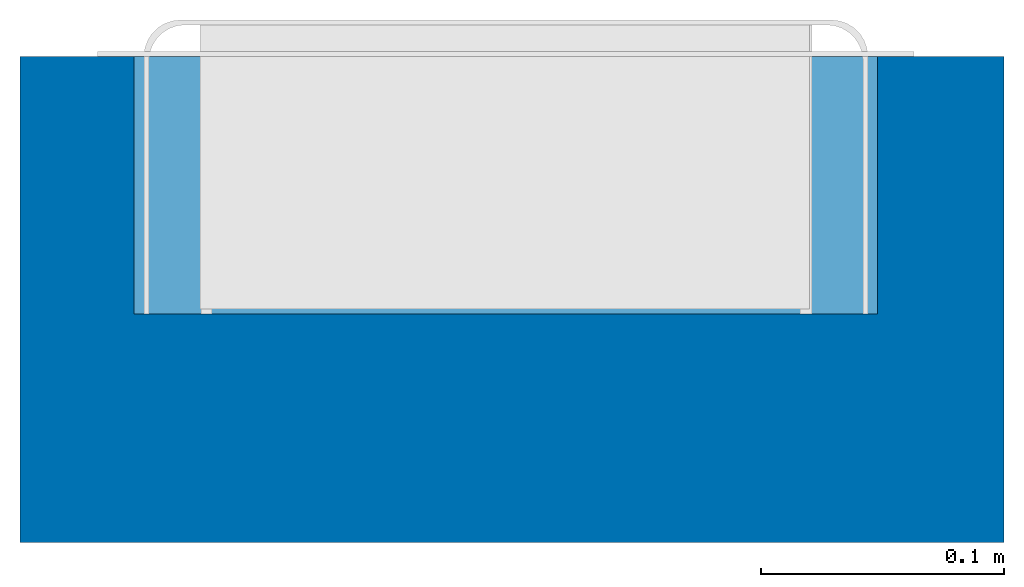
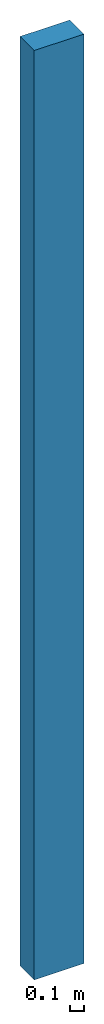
# One storey, part 1 of 2: 1 wall, 1 opening.
"""IFC2X3 building model written with IfcOpenShell, lengths in millimetres."""

from ifc_helpers import new_model, entity, si_unit, converted_unit, derived_unit, direction, frame, frame_2d, origin, place, context, subcontext, project, spatial, rectangle, extrude, material, layer, layer_set, layer_usage, type_object, element, save


model = new_model("IFC2X3")

# Units and contexts
model_context = context("Model", 3, precision=0.01, world=origin(), true_north=direction((6.12303176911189e-17, 1.0)))
context_of_model = context(None, 3, precision=0.01, world=origin(), true_north=direction((6.12303176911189e-17, 1.0)))
body_context = subcontext(model_context, "Body", "Model", "MODEL_VIEW")
ifc_project = project(units=[si_unit("LENGTHUNIT", "METRE", prefix="MILLI"), si_unit("AREAUNIT", "SQUARE_METRE"), si_unit("VOLUMEUNIT", "CUBIC_METRE"), converted_unit("PLANEANGLEUNIT", "DEGREE", entity("IfcRatioMeasure", 0.0174532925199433), si_unit("PLANEANGLEUNIT", "RADIAN"), dimensions=[0, 0, 0, 0, 0, 0, 0]), si_unit("MASSUNIT", "GRAM", prefix="KILO"), si_unit("TIMEUNIT", "SECOND"), si_unit("FREQUENCYUNIT", "HERTZ"), si_unit("THERMODYNAMICTEMPERATUREUNIT", "DEGREE_CELSIUS"), derived_unit("THERMALTRANSMITTANCEUNIT", [(si_unit("MASSUNIT", "GRAM", prefix="KILO"), 1), (si_unit("THERMODYNAMICTEMPERATUREUNIT", "KELVIN"), -1), (si_unit("TIMEUNIT", "SECOND"), -3)]), derived_unit("VOLUMETRICFLOWRATEUNIT", [(si_unit("LENGTHUNIT", "METRE"), 3), (si_unit("TIMEUNIT", "SECOND"), -1)]), si_unit("ELECTRICCURRENTUNIT", "AMPERE"), si_unit("ELECTRICVOLTAGEUNIT", "VOLT"), si_unit("POWERUNIT", "WATT"), si_unit("FORCEUNIT", "NEWTON", prefix="KILO"), si_unit("ILLUMINANCEUNIT", "LUX"), si_unit("LUMINOUSFLUXUNIT", "LUMEN"), si_unit("LUMINOUSINTENSITYUNIT", "CANDELA"), si_unit("PRESSUREUNIT", "PASCAL")], contexts=[model_context, context_of_model])

# Site, building, storey
site_placement = place(None, origin())
site = spatial("IfcSite", under=ifc_project, at=site_placement, Name="Default", CompositionType="ELEMENT")
building_placement = place(site_placement, origin())
building = spatial("IfcBuilding", under=site, at=building_placement, CompositionType="ELEMENT")
storey_placement = place(building_placement, origin())
storey = spatial("IfcBuildingStorey", under=building, at=storey_placement, Name="Level 1", CompositionType="ELEMENT", Elevation=0.0)

# Wall, opening
ifc_material = material(Name="Default Wall")
ifc_layer = layer(ifc_material, 200.0)
ifc_layer_set = layer_set([ifc_layer], Name="Basic Wall:Generic - 200mm")
ifc_layer_usage = layer_usage(ifc_layer_set, "AXIS2", "NEGATIVE", 100.0)
wall_type = type_object("IfcWallType", Name="Basic Wall:Generic - 200mm", PredefinedType="STANDARD", material=ifc_layer_set)
wall_placement = place(storey_placement, frame((-787.326460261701, 67.838184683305, 0.0)))
wall = element("IfcWallStandardCase", 1, at=wall_placement, inside=storey, type_object=wall_type, material=ifc_layer_usage, Name="Basic Wall:Generic - 200mm", ObjectType="Basic Wall:Generic - 200mm:249", context=body_context, shape_type="SweptSolid", body=[
    extrude(rectangle(XDim=404.999999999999, YDim=200.0, at=frame_2d((202.499999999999, 7.105427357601e-15), x_axis=(-1.0, 0.0))), origin(), (0.0, 0.0, 1.0), 8000.0),
])
opening_placement = place(wall_placement, frame((47.0, -6.0, 1000.0)))
element("IfcOpeningElement", 2, at=opening_placement, cuts=wall, Name="Basic Wall:Generic - 200mm", ObjectType="Recess", context=body_context, shape_type="SweptSolid", body=[
    extrude(rectangle(XDim=941.999999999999, YDim=306.000000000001, at=frame_2d((-7.105427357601e-14, 8.5265128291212e-14), x_axis=(0.0, 1.0))), frame((153.0, 0.0, 471.0), z_axis=(0.0, 1.0, 0.0), x_axis=(-1.0, 0.0, 0.0)), (0.0, 0.0, 1.0), 106.0),
])

save(model, "model.ifc")
